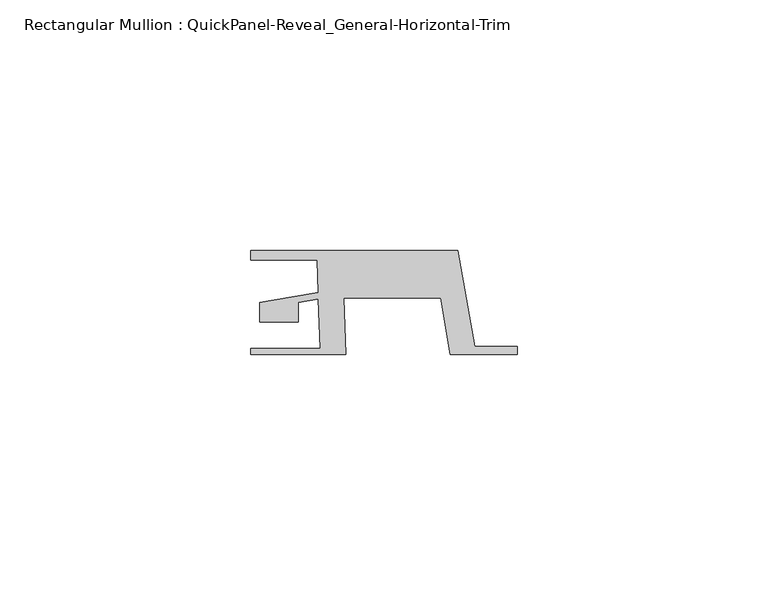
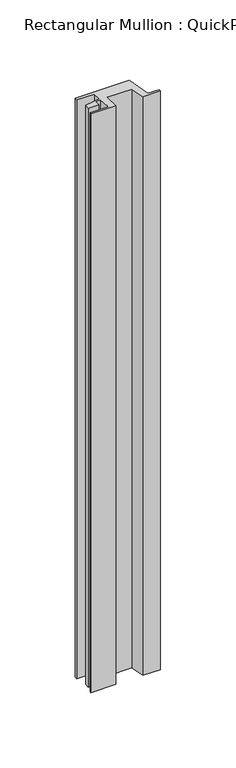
"""IFC4 building model written with IfcOpenShell, lengths in millimetres: member geometry, Rectangular Mullion : QuickPanel-Reveal_General-Horizontal-Trim."""

from ifc_helpers import new_model, si_unit, frame, origin, place, context, project, spatial, polyline, outline, extrude, source, transform, mapped, element, save


def rectangular_mullion_quickpanel_reveal_general_horizontal_5481c417(model_context):
    return source(origin(), model_context, "Body", "SweptSolid", [
        extrude(outline(polyline([(-53.1926881, 8.6293878), (-11.8981995, 8.6293878), (-8.5254306, -10.4985348), (0.0, -10.4985348), (0.0, -12.1803727), (-13.3796258, -12.1803727), (-15.3127056, -0.9043028), (-34.6033563, -0.9043028), (-34.2095873, -12.1803727), (-53.1926881, -12.1803727), (-53.1926881, -10.9303752), (-39.3363347, -10.9303752), (-39.6802617, -1.0815922), (-43.6658306, -1.7648465), (-43.6658306, -5.6493034), (-51.4106037, -5.6493034), (-51.4106037, -1.8040245), (-44.9752711, -0.7008023), (-39.7249902, 0.1992641), (-39.9517754, 6.6935423), (-53.1926881, 6.6935423), (-53.1926881, 8.6293878)])), frame((0.0, 0.0, -469.0700779), z_axis=(0.0, 0.0, 1.0), x_axis=(1.0, 0.0, 0.0)), (0.0, 0.0, 1.0), 469.0700779),
    ])


if __name__ == "__main__":
    model = new_model("IFC4")
    model_context = context("Model", 3, world=origin())
    ifc_project = project(units=[si_unit("LENGTHUNIT", "METRE", prefix="MILLI")], contexts=[model_context])
    site = spatial("IfcSite", under=ifc_project)
    building = spatial("IfcBuilding", under=site)
    placement = place(None, origin())
    rectangular_mullion_quickpanel_reveal_general_horizontal_shape = rectangular_mullion_quickpanel_reveal_general_horizontal_5481c417(model_context)
    element("IfcMember", 1, ObjectType="Rectangular Mullion : QuickPanel-Reveal_General-Horizontal-Trim", at=placement, inside=building, context=model_context, shape_type="MappedRepresentation", body=[
        mapped(rectangular_mullion_quickpanel_reveal_general_horizontal_shape, transform((0.0, 0.0, 0.0), x_axis=(1.0, 0.0, 0.0), y_axis=(0.0, 1.0, 0.0), z_axis=(0.0, 0.0, 1.0))),
    ])
    save(model, "model.ifc")
